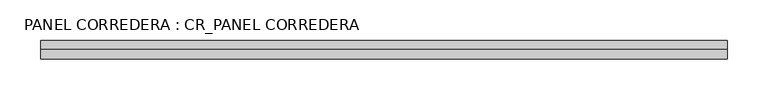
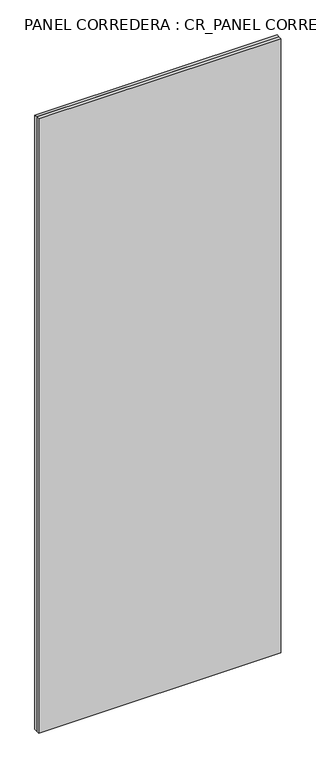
"""IFC4 building model written with IfcOpenShell, lengths in millimetres: plate geometry, PANEL CORREDERA : CR_PANEL CORREDERA."""

from ifc_helpers import new_model, si_unit, frame, origin, origin_with_axes, place, context, project, spatial, polyline, outline, extrude, source, transform, mapped, element, save


def panel_corredera_cr_panel_corredera_42e60b83(model_context):
    return source(origin(), model_context, "Body", "SweptSolid", [
        extrude(outline(polyline([(2250.0, -344.5664968), (0.0, -344.5664968), (0.0, 494.5664968), (2250.0, 494.5664968), (2250.0, -344.5664968)]), holes=[polyline([(2230.0, -324.5664968), (2230.0, 474.5664968), (20.0, 474.5664968), (20.0, -324.5664968), (2230.0, -324.5664968)])]), frame((0.0, -30.0, 0.0), z_axis=(0.0, 1.0, 0.0), x_axis=(0.0, 0.0, 1.0)), (0.0, 0.0, 1.0), 10.0),
        extrude(outline(polyline([(494.5664968, -30.0), (494.5664968, -42.5), (-344.5664968, -42.5), (-344.5664968, -30.0), (494.5664968, -30.0)])), origin_with_axes(), (0.0, 0.0, 1.0), 2250.0),
    ])


if __name__ == "__main__":
    model = new_model("IFC4")
    model_context = context("Model", 3, world=origin())
    ifc_project = project(units=[si_unit("LENGTHUNIT", "METRE", prefix="MILLI")], contexts=[model_context])
    site = spatial("IfcSite", under=ifc_project)
    building = spatial("IfcBuilding", under=site)
    placement = place(None, origin())
    panel_corredera_cr_panel_corredera_shape = panel_corredera_cr_panel_corredera_42e60b83(model_context)
    element("IfcPlate", 1, ObjectType="PANEL CORREDERA : CR_PANEL CORREDERA", at=placement, inside=building, context=model_context, shape_type="MappedRepresentation", body=[
        mapped(panel_corredera_cr_panel_corredera_shape, transform((0.0, 0.0, 0.0), x_axis=(1.0, 0.0, 0.0), y_axis=(0.0, 1.0, 0.0), z_axis=(0.0, 0.0, 1.0))),
    ])
    save(model, "model.ifc")
